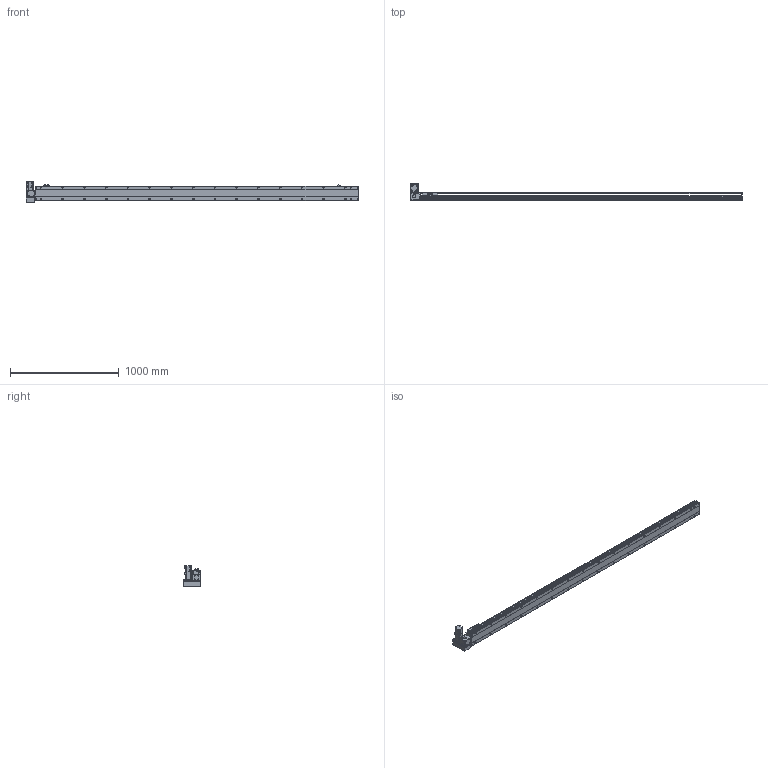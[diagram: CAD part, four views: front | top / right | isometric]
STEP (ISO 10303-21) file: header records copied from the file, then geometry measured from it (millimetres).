
FILE_DESCRIPTION( ( 'STEP AP214' ), '1' );
FILE_NAME( 'x:/temp/worker_2/temp/exporttempdir_6476_453_tEFsp/format_0/PBS140-P40-S2700-LU-T40-C1-N(0).stp', '2022-06-07T05:13:43', ( 'License CC BY-ND 4.0' ), ( 'CADENAS' ), ' ', 'PARTsolutions', ' ' );
FILE_SCHEMA( ( 'AUTOMOTIVE_DESIGN { 1 0 10303 214 1 1 1 1 }' ) );
Length unit declared in the file: millimetre
Products named in the file (7): PBS140-P40-S2700-LU-T40-C1-N(0); _PBS140-S2700()_body; _PBS140T-LU_motors; _T40-p1; _PBS140_sliser; _PBS140_plant; _PBS140_sensor
Assembly tree (8 placements, depth 2):
  PBS140-P40-S2700-LU-T40-C1-N(0)
    _PBS140-S2700()_body
    _PBS140T-LU_motors
    _T40-p1
    _PBS140_sliser
    _PBS140_plant
    _PBS140_sensor  x3
Bounding box: 3054 x 162.5 x 189.7 mm (x, y, z)
Volume: 13637206.8 mm3; surface area: 2319419.7 mm2
Topology: 8 solids, 8 shells, 1203 faces, 3156 edges, 2061 vertices
Faces by surface type: plane 740, cylinder 395, cone 58, sphere 8, torus 2
Full cylindrical faces by diameter (mm): 3.242 x4, 4 x2, 4.134 x4, 4.4 x8, 4.5 x2, 4.8 x4, 4.917 x40, 5.5 x7, 6 x2, 7 x34, 7.5 x8, 8 x12, 8.5 x4, 10.5 x32, 14 x1, 30 x2, 50 x2
Entity records: 44425 total; most frequent: CARTESIAN_POINT 7595, DIRECTION 5757, ORIENTED_EDGE 5392, EDGE_CURVE 2696, AXIS2_PLACEMENT_3D 2047, VERTEX_POINT 1893, LINE 1663, VECTOR 1663
